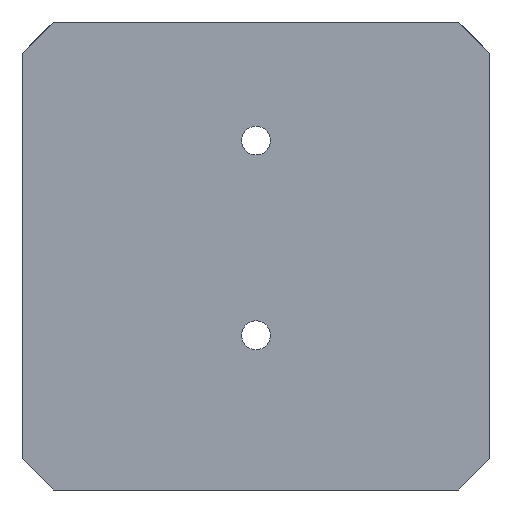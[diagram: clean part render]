
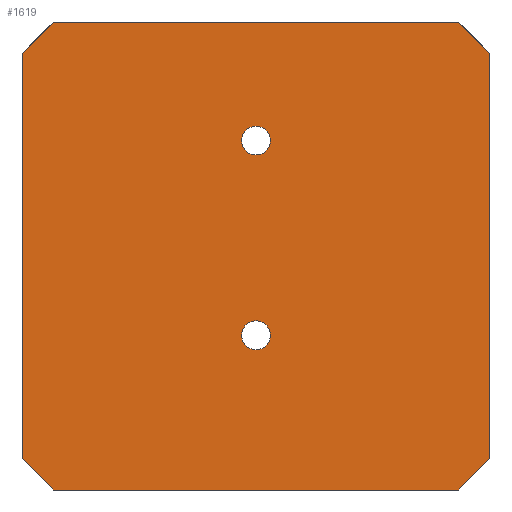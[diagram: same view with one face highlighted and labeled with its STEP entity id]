
A CAD part, front view. The second image highlights one B-rep face of the part: STEP entity #1619.
In plain terms, the highlighted planar face has unit normal (0, -1, 0).
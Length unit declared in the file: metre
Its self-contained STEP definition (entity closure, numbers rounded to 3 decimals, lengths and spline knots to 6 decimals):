
#17=CIRCLE('',#1719,0.00235);
#18=CIRCLE('',#1720,0.00235);
#133=ORIENTED_EDGE('',*,*,#591,.T.);
#134=ORIENTED_EDGE('',*,*,#592,.T.);
#135=ORIENTED_EDGE('',*,*,#589,.F.);
#136=ORIENTED_EDGE('',*,*,#593,.T.);
#137=ORIENTED_EDGE('',*,*,#524,.T.);
#138=ORIENTED_EDGE('',*,*,#582,.T.);
#139=ORIENTED_EDGE('',*,*,#530,.T.);
#140=ORIENTED_EDGE('',*,*,#575,.T.);
#141=ORIENTED_EDGE('',*,*,#538,.F.);
#142=ORIENTED_EDGE('',*,*,#594,.T.);
#524=EDGE_CURVE('',#759,#758,#912,.T.);
#530=EDGE_CURVE('',#765,#764,#918,.T.);
#538=EDGE_CURVE('',#772,#768,#926,.T.);
#575=EDGE_CURVE('',#764,#768,#963,.T.);
#582=EDGE_CURVE('',#758,#765,#970,.F.);
#589=EDGE_CURVE('',#813,#814,#977,.T.);
#591=EDGE_CURVE('',#815,#815,#17,.F.);
#592=EDGE_CURVE('',#816,#816,#18,.F.);
#593=EDGE_CURVE('',#813,#759,#979,.T.);
#594=EDGE_CURVE('',#772,#814,#980,.F.);
#758=VERTEX_POINT('',#2278);
#759=VERTEX_POINT('',#2280);
#764=VERTEX_POINT('',#2291);
#765=VERTEX_POINT('',#2293);
#768=VERTEX_POINT('',#2301);
#772=VERTEX_POINT('',#2308);
#813=VERTEX_POINT('',#2411);
#814=VERTEX_POINT('',#2413);
#815=VERTEX_POINT('',#2417);
#816=VERTEX_POINT('',#2419);
#912=LINE('',#2279,#1138);
#918=LINE('',#2292,#1144);
#926=LINE('',#2309,#1152);
#963=LINE('',#2384,#1189);
#970=LINE('',#2397,#1196);
#977=LINE('',#2412,#1203);
#979=LINE('',#2420,#1205);
#980=LINE('',#2421,#1206);
#1138=VECTOR('',#1836,1.);
#1144=VECTOR('',#1844,1.);
#1152=VECTOR('',#1854,1.);
#1189=VECTOR('',#1905,1.);
#1196=VECTOR('',#1916,1.);
#1203=VECTOR('',#1927,1.);
#1205=VECTOR('',#1935,1.);
#1206=VECTOR('',#1936,1.);
#1350=EDGE_LOOP('',(#133));
#1351=EDGE_LOOP('',(#134));
#1352=EDGE_LOOP('',(#135,#136,#137,#138,#139,#140,#141,#142));
#1444=FACE_BOUND('',#1350,.T.);
#1445=FACE_BOUND('',#1351,.T.);
#1446=FACE_BOUND('',#1352,.T.);
#1538=PLANE('',#1718);
#1619=ADVANCED_FACE('',(#1444,#1445,#1446),#1538,.T.);
#1718=AXIS2_PLACEMENT_3D('',#2415,#1929,#1930);
#1719=AXIS2_PLACEMENT_3D('',#2416,#1931,#1932);
#1720=AXIS2_PLACEMENT_3D('',#2418,#1933,#1934);
#1836=DIRECTION('',(0.,0.,1.));
#1844=DIRECTION('',(-1.,0.,0.));
#1854=DIRECTION('',(0.,0.,1.));
#1905=DIRECTION('',(-0.707,0.,-0.707));
#1916=DIRECTION('',(0.707,0.,-0.707));
#1927=DIRECTION('',(-1.,0.,0.));
#1929=DIRECTION('',(0.,-1.,0.));
#1930=DIRECTION('',(1.,0.,0.));
#1931=DIRECTION('',(0.,-1.,0.));
#1932=DIRECTION('',(0.,0.,-1.));
#1933=DIRECTION('',(0.,-1.,0.));
#1934=DIRECTION('',(0.,0.,-1.));
#1935=DIRECTION('',(0.707,0.,0.707));
#1936=DIRECTION('',(-0.707,0.,0.707));
#2278=CARTESIAN_POINT('',(0.0381,-0.01778,0.028448));
#2279=CARTESIAN_POINT('',(0.0381,-0.01778,-0.004572));
#2280=CARTESIAN_POINT('',(0.0381,-0.01778,-0.037592));
#2291=CARTESIAN_POINT('',(-0.03302,-0.01778,0.033528));
#2292=CARTESIAN_POINT('',(0.,-0.01778,0.033528));
#2293=CARTESIAN_POINT('',(0.03302,-0.01778,0.033528));
#2301=CARTESIAN_POINT('',(-0.0381,-0.01778,0.028448));
#2308=CARTESIAN_POINT('',(-0.0381,-0.01778,-0.037592));
#2309=CARTESIAN_POINT('',(-0.0381,-0.01778,-0.004572));
#2384=CARTESIAN_POINT('',(-0.03556,-0.01778,0.030988));
#2397=CARTESIAN_POINT('',(0.03556,-0.01778,0.030988));
#2411=CARTESIAN_POINT('',(0.03302,-0.01778,-0.042672));
#2412=CARTESIAN_POINT('',(0.,-0.01778,-0.042672));
#2413=CARTESIAN_POINT('',(-0.03302,-0.01778,-0.042672));
#2415=CARTESIAN_POINT('',(0.,-0.01778,-0.004572));
#2416=CARTESIAN_POINT('',(0.,-0.01778,0.014224));
#2417=CARTESIAN_POINT('',(0.,-0.01778,0.011875));
#2418=CARTESIAN_POINT('',(0.,-0.01778,-0.017476));
#2419=CARTESIAN_POINT('',(0.,-0.01778,-0.019826));
#2420=CARTESIAN_POINT('',(0.03556,-0.01778,-0.040132));
#2421=CARTESIAN_POINT('',(-0.03556,-0.01778,-0.040132));
